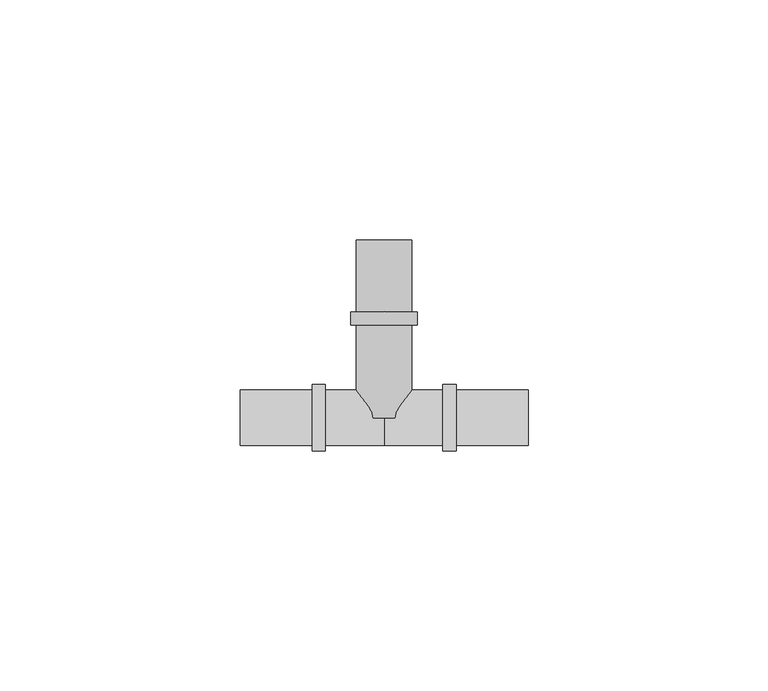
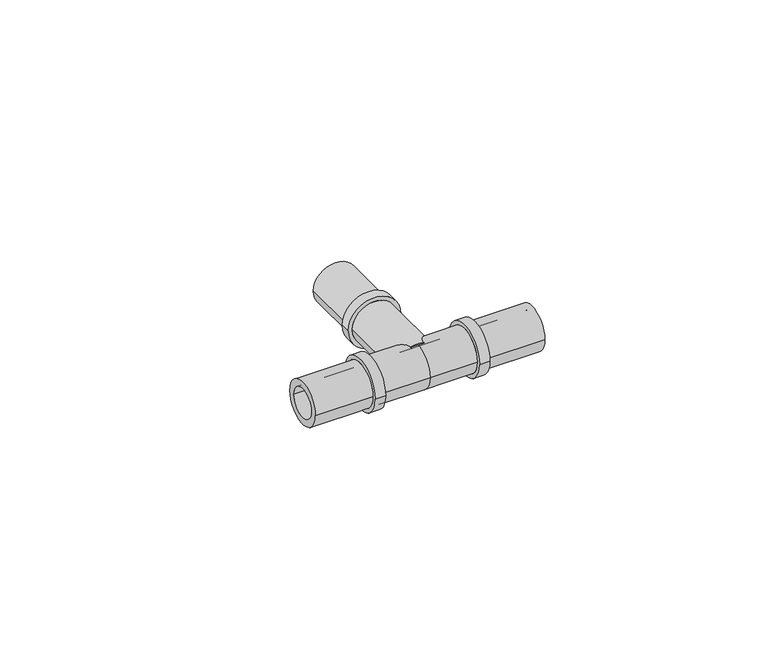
"""IFC4 building model written with IfcOpenShell, lengths in millimetres: pipe fitting geometry, FASTLOC_T-piece_LX : FSL T-Piece LX PL."""

from ifc_helpers import new_model, si_unit, frame, origin, place, context, project, spatial, polyline, circle_curve, source, transform, mapped, element, save
from ifc_brep_helpers import plane_surface, cylinder_surface, revolved_surface, advanced_brep


def pipe_fitting_3e6fe312(model_context):
    return source(origin(), model_context, "Body", "AdvancedBrep", [
        advanced_brep(
        [(3.95, 37.1, 0.0), (-3.95, 37.1, 0.0), (-3.95, 0.0, 0.0), (3.95, 0.0, 0.0), (5.8, 0.0, 0.0), (-5.8, 0.0, 0.0), (-5.8, 19.39, 0.0), (5.8, 19.39, 0.0), (6.9, 19.39, 0.0), (-6.9, 19.39, 0.0), (-6.9, 22.1, 0.0), (6.9, 22.1, 0.0), (5.8, 22.1, 0.0), (-5.8, 22.1, 0.0), (-5.8, 37.1, 0.0), (5.8, 37.1, 0.0)],
        [
            (0, 1, circle_curve(frame((0.0, 37.1, 0.0), z_axis=(0.0, 1.0, 0.0), x_axis=(-1.0, 0.0, 0.0)), 3.95)),
            (1, 2),
            (2, 3, circle_curve(frame((0.0, 0.0, 0.0), z_axis=(0.0, -1.0, 0.0), x_axis=(-1.0, 0.0, 0.0)), 3.95)),
            (3, 0),
            (4, 5, circle_curve(frame((0.0, 0.0, 0.0), z_axis=(0.0, 1.0, 0.0), x_axis=(-1.0, 0.0, 0.0)), 5.8)),
            (5, 6),
            (6, 7, circle_curve(frame((0.0, 19.39, 0.0), z_axis=(0.0, -1.0, 0.0), x_axis=(-1.0, 0.0, 0.0)), 5.8)),
            (7, 4),
            (8, 9, circle_curve(frame((0.0, 19.39, 0.0), z_axis=(0.0, 1.0, 0.0), x_axis=(-1.0, 0.0, 0.0)), 6.9)),
            (9, 10),
            (10, 11, circle_curve(frame((0.0, 22.1, 0.0), z_axis=(0.0, -1.0, 0.0), x_axis=(-1.0, 0.0, 0.0)), 6.9)),
            (11, 8),
            (12, 13, circle_curve(frame((0.0, 22.1, 0.0), z_axis=(0.0, 1.0, 0.0), x_axis=(-1.0, 0.0, 0.0)), 5.8)),
            (13, 14),
            (14, 15, circle_curve(frame((0.0, 37.1, 0.0), z_axis=(0.0, -1.0, 0.0), x_axis=(-1.0, 0.0, 0.0)), 5.8)),
            (15, 12),
            (1, 0, circle_curve(frame((0.0, 37.1, 0.0), z_axis=(0.0, 1.0, 0.0), x_axis=(1.0, 0.0, 0.0)), 3.95)),
            (3, 2, circle_curve(frame((0.0, 0.0, 0.0), z_axis=(0.0, -1.0, 0.0), x_axis=(1.0, 0.0, 0.0)), 3.95)),
            (4, 5, circle_curve(frame((0.0, 0.0, 0.0), z_axis=(0.0, -1.0, 0.0), x_axis=(1.0, 0.0, 0.0)), 5.8)),
            (7, 6, circle_curve(frame((0.0, 19.39, 0.0), z_axis=(0.0, -1.0, 0.0), x_axis=(1.0, 0.0, 0.0)), 5.8)),
            (8, 9, circle_curve(frame((0.0, 19.39, 0.0), z_axis=(0.0, -1.0, 0.0), x_axis=(1.0, 0.0, 0.0)), 6.9)),
            (11, 10, circle_curve(frame((0.0, 22.1, 0.0), z_axis=(0.0, -1.0, 0.0), x_axis=(1.0, 0.0, 0.0)), 6.9)),
            (12, 13, circle_curve(frame((0.0, 22.1, 0.0), z_axis=(0.0, -1.0, 0.0), x_axis=(1.0, 0.0, 0.0)), 5.8)),
            (15, 14, circle_curve(frame((0.0, 37.1, 0.0), z_axis=(0.0, -1.0, 0.0), x_axis=(1.0, 0.0, 0.0)), 5.8)),
        ],
        [
            revolved_surface(polyline([(-3.95, 0.0, 0.0), (-3.95, 37.1, 0.0)]), (0.0, 0.0, 0.0), (0.0, -1.0, 0.0)),
            cylinder_surface(frame((0.0, 0.0, 0.0), z_axis=(0.0, -1.0, 0.0), x_axis=(-1.0, 0.0, 0.0)), 5.8),
            cylinder_surface(frame((0.0, 0.0, 0.0), z_axis=(0.0, -1.0, 0.0), x_axis=(-1.0, 0.0, 0.0)), 6.9),
            revolved_surface(polyline([(3.95, 0.0, 0.0), (3.95, 37.1, 0.0)]), (0.0, 0.0, 0.0), (0.0, -1.0, 0.0)),
            plane_surface(frame((0.0, 0.0, 0.0), z_axis=(0.0, -1.0, 0.0), x_axis=(1.0, 0.0, 0.0))),
            cylinder_surface(frame((0.0, 0.0, 0.0), z_axis=(0.0, -1.0, 0.0), x_axis=(1.0, 0.0, 0.0)), 5.8),
            plane_surface(frame((0.0, 19.39, 0.0), z_axis=(0.0, -1.0, 0.0), x_axis=(1.0, 0.0, 0.0))),
            cylinder_surface(frame((0.0, 0.0, 0.0), z_axis=(0.0, -1.0, 0.0), x_axis=(1.0, 0.0, 0.0)), 6.9),
            plane_surface(frame((0.0, 22.1, 0.0), z_axis=(0.0, 1.0, 0.0), x_axis=(1.0, 0.0, 0.0))),
            plane_surface(frame((0.0, 37.1, 0.0), z_axis=(0.0, 1.0, 0.0), x_axis=(1.0, 0.0, 0.0))),
        ],
        [
            (0, [[1, 2, 3, 4]]),
            (1, [[5, 6, 7, 8]]),
            (2, [[9, 10, 11, 12]]),
            (1, [[13, 14, 15, 16]]),
            (3, [[17, -4, 18, -2]]),
            (4, [[19, -5], [-18, -3]]),
            (5, [[-19, -8, 20, -6]]),
            (6, [[21, -9], [-20, -7]]),
            (7, [[-21, -12, 22, -10]]),
            (8, [[-22, -11], [23, -13]]),
            (5, [[-23, -16, 24, -14]]),
            (9, [[-24, -15], [-17, -1]]),
        ],
    ),
        advanced_brep(
        [(0.0, 5.8, 0.0), (0.0, -5.8, 0.0), (-12.29, -5.8, 0.0), (-12.29, 5.8, 0.0), (12.29, 5.8, 0.0), (12.29, -5.8, 0.0), (15.0, 6.9, 0.0), (15.0, -6.9, 0.0), (12.29, -6.9, 0.0), (12.29, 6.9, 0.0), (30.0, 5.8, 0.0), (30.0, -5.8, 0.0), (15.0, -5.8, 0.0), (15.0, 5.8, 0.0), (-15.0, 5.8, 0.0), (-15.0, -5.8, 0.0), (-30.0, -5.8, 0.0), (-30.0, 5.8, 0.0), (-12.29, 6.9, 0.0), (-12.29, -6.9, 0.0), (-15.0, -6.9, 0.0), (-15.0, 6.9, 0.0), (30.0, -3.95, 0.0), (30.0, 3.95, 0.0), (-30.0, 3.95, 0.0), (-30.0, -3.95, 0.0), (0.0, 3.95, 0.0), (0.0, -3.95, 0.0)],
        [
            (0, 1, circle_curve(frame((0.0, 0.0, 0.0), z_axis=(-1.0, 0.0, 0.0), x_axis=(0.0, -1.0, 0.0)), 5.8)),
            (1, 2),
            (2, 3, circle_curve(frame((-12.29, 0.0, 0.0), z_axis=(1.0, 0.0, 0.0), x_axis=(0.0, -1.0, 0.0)), 5.8)),
            (3, 0),
            (4, 5, circle_curve(frame((12.29, 0.0, 0.0), z_axis=(-1.0, 0.0, 0.0), x_axis=(0.0, -1.0, 0.0)), 5.8)),
            (5, 1),
            (0, 4),
            (6, 7, circle_curve(frame((15.0, 0.0, 0.0), z_axis=(-1.0, 0.0, 0.0), x_axis=(0.0, -1.0, 0.0)), 6.9)),
            (7, 8),
            (8, 9, circle_curve(frame((12.29, 0.0, 0.0), z_axis=(1.0, 0.0, 0.0), x_axis=(0.0, -1.0, 0.0)), 6.9)),
            (9, 6),
            (10, 11, circle_curve(frame((30.0, 0.0, 0.0), z_axis=(-1.0, 0.0, 0.0), x_axis=(0.0, -1.0, 0.0)), 5.8)),
            (11, 12),
            (12, 13, circle_curve(frame((15.0, 0.0, 0.0), z_axis=(1.0, 0.0, 0.0), x_axis=(0.0, -1.0, 0.0)), 5.8)),
            (13, 10),
            (14, 15, circle_curve(frame((-15.0, 0.0, 0.0), z_axis=(-1.0, 0.0, 0.0), x_axis=(0.0, -1.0, 0.0)), 5.8)),
            (15, 16),
            (16, 17, circle_curve(frame((-30.0, 0.0, 0.0), z_axis=(1.0, 0.0, 0.0), x_axis=(0.0, -1.0, 0.0)), 5.8)),
            (17, 14),
            (18, 19, circle_curve(frame((-12.29, 0.0, 0.0), z_axis=(-1.0, 0.0, 0.0), x_axis=(0.0, -1.0, 0.0)), 6.9)),
            (19, 20),
            (20, 21, circle_curve(frame((-15.0, 0.0, 0.0), z_axis=(1.0, 0.0, 0.0), x_axis=(0.0, -1.0, 0.0)), 6.9)),
            (21, 18),
            (18, 19, circle_curve(frame((-12.29, 0.0, 0.0), z_axis=(1.0, 0.0, 0.0), x_axis=(0.0, 1.0, 0.0)), 6.9)),
            (2, 3, circle_curve(frame((-12.29, 0.0, 0.0), z_axis=(-1.0, 0.0, 0.0), x_axis=(0.0, 1.0, 0.0)), 5.8)),
            (1, 0, circle_curve(frame((0.0, 0.0, 0.0), z_axis=(-1.0, 0.0, 0.0), x_axis=(0.0, 1.0, 0.0)), 5.8)),
            (5, 4, circle_curve(frame((12.29, 0.0, 0.0), z_axis=(-1.0, 0.0, 0.0), x_axis=(0.0, 1.0, 0.0)), 5.8)),
            (8, 9, circle_curve(frame((12.29, 0.0, 0.0), z_axis=(-1.0, 0.0, 0.0), x_axis=(0.0, 1.0, 0.0)), 6.9)),
            (7, 6, circle_curve(frame((15.0, 0.0, 0.0), z_axis=(-1.0, 0.0, 0.0), x_axis=(0.0, 1.0, 0.0)), 6.9)),
            (12, 13, circle_curve(frame((15.0, 0.0, 0.0), z_axis=(-1.0, 0.0, 0.0), x_axis=(0.0, 1.0, 0.0)), 5.8)),
            (11, 10, circle_curve(frame((30.0, 0.0, 0.0), z_axis=(-1.0, 0.0, 0.0), x_axis=(0.0, 1.0, 0.0)), 5.8)),
            (22, 23, circle_curve(frame((30.0, 0.0, 0.0), z_axis=(-1.0, 0.0, 0.0), x_axis=(0.0, 1.0, 0.0)), 3.95)),
            (23, 22, circle_curve(frame((30.0, 0.0, 0.0), z_axis=(-1.0, 0.0, 0.0), x_axis=(0.0, -1.0, 0.0)), 3.95)),
            (16, 17, circle_curve(frame((-30.0, 0.0, 0.0), z_axis=(-1.0, 0.0, 0.0), x_axis=(0.0, 1.0, 0.0)), 5.8)),
            (24, 25, circle_curve(frame((-30.0, 0.0, 0.0), z_axis=(1.0, 0.0, 0.0), x_axis=(0.0, 1.0, 0.0)), 3.95)),
            (25, 24, circle_curve(frame((-30.0, 0.0, 0.0), z_axis=(1.0, 0.0, 0.0), x_axis=(0.0, -1.0, 0.0)), 3.95)),
            (15, 14, circle_curve(frame((-15.0, 0.0, 0.0), z_axis=(-1.0, 0.0, 0.0), x_axis=(0.0, 1.0, 0.0)), 5.8)),
            (20, 21, circle_curve(frame((-15.0, 0.0, 0.0), z_axis=(-1.0, 0.0, 0.0), x_axis=(0.0, 1.0, 0.0)), 6.9)),
            (26, 27, circle_curve(frame((0.0, 0.0, 0.0), z_axis=(-1.0, 0.0, 0.0), x_axis=(0.0, -1.0, 0.0)), 3.95)),
            (27, 22),
            (23, 26),
            (25, 27),
            (26, 24),
            (27, 26, circle_curve(frame((0.0, 0.0, 0.0), z_axis=(-1.0, 0.0, 0.0), x_axis=(0.0, 1.0, 0.0)), 3.95)),
        ],
        [
            cylinder_surface(frame((0.0, 0.0, 0.0), z_axis=(1.0, 0.0, 0.0), x_axis=(0.0, -1.0, 0.0)), 5.8),
            cylinder_surface(frame((0.0, 0.0, 0.0), z_axis=(1.0, 0.0, 0.0), x_axis=(0.0, -1.0, 0.0)), 6.9),
            plane_surface(frame((-12.29, 0.0, 0.0), z_axis=(1.0, 0.0, 0.0), x_axis=(0.0, 1.0, 0.0))),
            cylinder_surface(frame((0.0, 0.0, 0.0), z_axis=(1.0, 0.0, 0.0), x_axis=(0.0, 1.0, 0.0)), 5.8),
            plane_surface(frame((12.29, 0.0, 0.0), z_axis=(-1.0, 0.0, 0.0), x_axis=(0.0, 1.0, 0.0))),
            cylinder_surface(frame((0.0, 0.0, 0.0), z_axis=(1.0, 0.0, 0.0), x_axis=(0.0, 1.0, 0.0)), 6.9),
            plane_surface(frame((15.0, 0.0, 0.0), z_axis=(1.0, 0.0, 0.0), x_axis=(0.0, 1.0, 0.0))),
            plane_surface(frame((30.0, 0.0, 0.0), z_axis=(1.0, 0.0, 0.0), x_axis=(0.0, 1.0, 0.0))),
            plane_surface(frame((-30.0, 0.0, 0.0), z_axis=(-1.0, 0.0, 0.0), x_axis=(0.0, 1.0, 0.0))),
            plane_surface(frame((-15.0, 0.0, 0.0), z_axis=(-1.0, 0.0, 0.0), x_axis=(0.0, 1.0, 0.0))),
            revolved_surface(polyline([(30.0, -3.95, 0.0), (0.0, -3.95, 0.0)]), (0.0, 0.0, 0.0), (1.0, 0.0, 0.0)),
            revolved_surface(polyline([(0.0, -3.95, 0.0), (-30.0, -3.95, 0.0)]), (0.0, 0.0, 0.0), (1.0, 0.0, 0.0)),
            revolved_surface(polyline([(30.0, 3.95, 0.0), (0.0, 3.95, 0.0)]), (0.0, 0.0, 0.0), (1.0, 0.0, 0.0)),
            revolved_surface(polyline([(0.0, 3.95, 0.0), (-30.0, 3.95, 0.0)]), (0.0, 0.0, 0.0), (1.0, 0.0, 0.0)),
        ],
        [
            (0, [[1, 2, 3, 4]]),
            (0, [[5, 6, -1, 7]]),
            (1, [[8, 9, 10, 11]]),
            (0, [[12, 13, 14, 15]]),
            (0, [[16, 17, 18, 19]]),
            (1, [[20, 21, 22, 23]]),
            (2, [[24, -20], [25, -3]]),
            (3, [[26, -4, -25, -2]]),
            (3, [[27, -7, -26, -6]]),
            (4, [[28, -10], [-27, -5]]),
            (5, [[29, -11, -28, -9]]),
            (6, [[-29, -8], [30, -14]]),
            (3, [[31, -15, -30, -13]]),
            (7, [[-31, -12], [32, 33]]),
            (8, [[34, -18], [35, 36]]),
            (3, [[37, -19, -34, -17]]),
            (9, [[38, -22], [-37, -16]]),
            (5, [[-24, -23, -38, -21]]),
            (10, [[39, 40, -33, 41]]),
            (11, [[-36, 42, -39, 43]]),
            (12, [[44, -41, -32, -40]]),
            (13, [[-35, -43, -44, -42]]),
        ],
    ),
    ])


if __name__ == "__main__":
    model = new_model("IFC4")
    model_context = context("Model", 3, world=origin())
    ifc_project = project(units=[si_unit("LENGTHUNIT", "METRE", prefix="MILLI")], contexts=[model_context])
    site = spatial("IfcSite", under=ifc_project)
    building = spatial("IfcBuilding", under=site)
    placement = place(None, origin())
    pipe_fitting_shape = pipe_fitting_3e6fe312(model_context)
    element("IfcPipeFitting", 1, ObjectType="FASTLOC_T-piece_LX : FSL T-Piece LX PL", at=placement, inside=building, context=model_context, shape_type="MappedRepresentation", body=[
        mapped(pipe_fitting_shape, transform((0.0, 0.0, 0.0), x_axis=(1.0, 0.0, 0.0), y_axis=(0.0, 1.0, 0.0), z_axis=(0.0, 0.0, 1.0))),
    ])
    save(model, "model.ifc")
